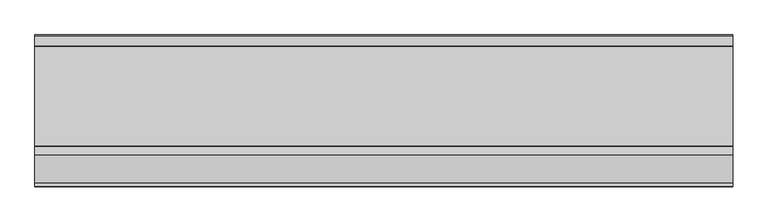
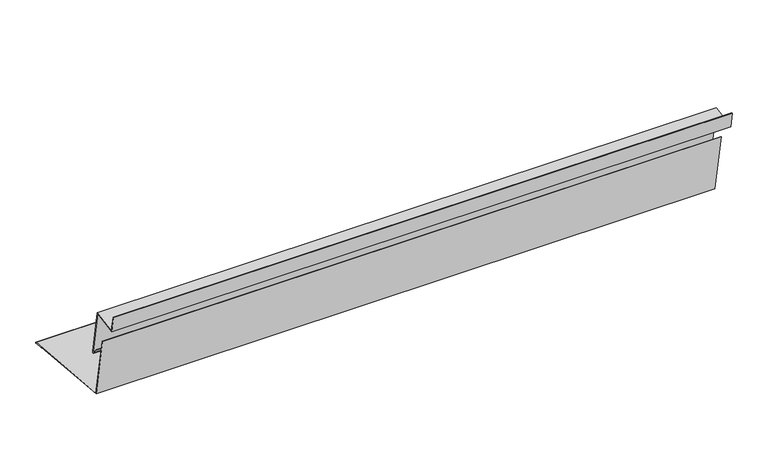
"""IFC4 building model written with IfcOpenShell, lengths in millimetres: proxy geometry, Faitiere contre mur plate : Faitiere contre mur plate."""

from ifc_helpers import new_model, si_unit, point, frame, frame_2d, origin, place, context, project, spatial, polyline, circle_curve, trimmed, segment, composite_curve, outline, extrude, source, transform, mapped, element, save


def generic_models_b33f6de4(model_context):
    return source(origin(), model_context, "Body", "SweptSolid", [
        extrude(outline(composite_curve([segment(trimmed(circle_curve(frame_2d((159.2523227, -15.3193216)), 1.0), [point((159.3394785, -14.3231269))], [point((159.165167, -16.3155163))], False, "CARTESIAN"), True, "CONTINUOUS"), segment(polyline([(159.165167, -16.3155163), (144.2222465, -15.0081801)]), True, "CONTINUOUS"), segment(trimmed(circle_curve(frame_2d((144.2658244, -14.5100828)), 0.5), [point((144.2222465, -15.0081801))], [point((144.3094023, -14.0119854))], False, "CARTESIAN"), True, "CONTINUOUS"), segment(polyline([(144.3094023, -14.0119854), (-8.8420578, -0.6129689), (-26.3680606, 98.7819319), (-25.3832528, 98.9555801), (-7.990495, 0.3163489), (159.3394785, -14.3231269)]), True, "CONTINUOUS")], self_intersect=False)), frame((0.0, 0.0, 0.0), z_axis=(1.0, 0.0, 0.0), x_axis=(0.0, 1.0, 0.0)), (0.0, 0.0, 1.0), 1000.0),
        extrude(outline(composite_curve([segment(trimmed(circle_curve(frame_2d((-0.6113232, 65.7209859)), 1.3755384), [point((0.7433177, 65.9598456))], [point((-1.6650468, 64.8368068))], False, "CARTESIAN"), True, "CONTINUOUS"), segment(polyline([(-1.6650468, 64.8368068), (-9.292635, 73.9270124), (-8.5265905, 74.5698), (-0.8990024, 65.4795944)]), True, "CONTINUOUS"), segment(trimmed(circle_curve(frame_2d((-0.6113232, 65.7209859)), 0.3755384), [point((-0.8990024, 65.4795944))], [point((-0.2414901, 65.7861974))], True, "CARTESIAN"), True, "CONTINUOUS"), segment(polyline([(-0.2414901, 65.7861974), (-13.1023209, 138.7235936), (-52.494631, 131.7776665), (-57.1831318, 158.3674758), (-56.1983241, 158.541124), (-51.6834715, 132.9361224), (-12.2911613, 139.8820495), (0.7433177, 65.9598456)]), True, "CONTINUOUS")], self_intersect=False)), frame((0.0, 0.0, 0.0), z_axis=(1.0, 0.0, 0.0), x_axis=(0.0, 1.0, 0.0)), (0.0, 0.0, 1.0), 1000.0),
    ])


if __name__ == "__main__":
    model = new_model("IFC4")
    model_context = context("Model", 3, world=origin())
    ifc_project = project(units=[si_unit("LENGTHUNIT", "METRE", prefix="MILLI")], contexts=[model_context])
    site = spatial("IfcSite", under=ifc_project)
    building = spatial("IfcBuilding", under=site)
    placement = place(None, origin())
    generic_models_shape = generic_models_b33f6de4(model_context)
    element("IfcBuildingElementProxy", 1, Name="Faitiere contre mur plate : Faitiere contre mur plate", ObjectType="Faitiere contre mur plate : Faitiere contre mur plate", at=placement, inside=building, context=model_context, shape_type="MappedRepresentation", body=[
        mapped(generic_models_shape, transform((0.0, 0.0, 0.0), x_axis=(1.0, 0.0, 0.0), y_axis=(0.0, 1.0, 0.0), z_axis=(0.0, 0.0, 1.0))),
    ])
    save(model, "model.ifc")
